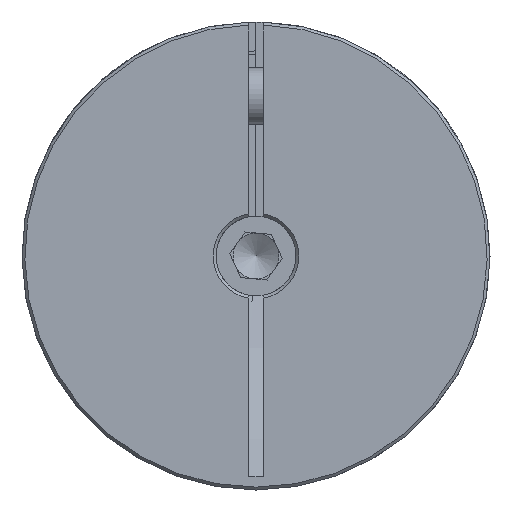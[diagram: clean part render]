
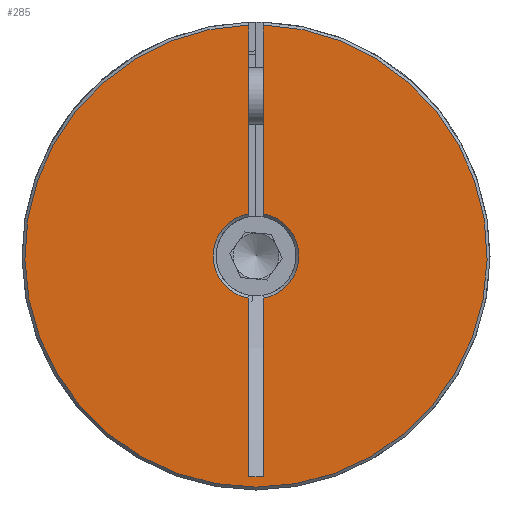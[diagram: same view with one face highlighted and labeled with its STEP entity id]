
A CAD part, left-side view. The second image highlights one B-rep face of the part: STEP entity #285.
In plain terms, the highlighted planar face has unit normal (-1, 0, 0).
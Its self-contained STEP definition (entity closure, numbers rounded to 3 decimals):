
#285 = ADVANCED_FACE( 'NONE', ( #622 ), #623, .F. );
#622 = FACE_OUTER_BOUND( '', #1124, .T. );
#623 = PLANE( '', #1125 );
#1124 = EDGE_LOOP( '', ( #1665, #1666, #1667, #1668, #1669, #1670, #1671, #1672 ) );
#1125 = AXIS2_PLACEMENT_3D( '', #1673, #1674, #1675 );
#1665 = ORIENTED_EDGE( '', *, *, #2519, .T. );
#1666 = ORIENTED_EDGE( '', *, *, #2520, .T. );
#1667 = ORIENTED_EDGE( '', *, *, #2521, .T. );
#1668 = ORIENTED_EDGE( '', *, *, #2522, .T. );
#1669 = ORIENTED_EDGE( '', *, *, #2523, .F. );
#1670 = ORIENTED_EDGE( '', *, *, #2524, .T. );
#1671 = ORIENTED_EDGE( '', *, *, #2525, .F. );
#1672 = ORIENTED_EDGE( '', *, *, #2526, .T. );
#1673 = CARTESIAN_POINT( '', ( 0., 7., 0. ) );
#1674 = DIRECTION( '', ( 1., 0., 0. ) );
#1675 = DIRECTION( '', ( 0., 1., 0. ) );
#2519 = EDGE_CURVE( 'NONE', #2893, #2894, #2895, .T. );
#2520 = EDGE_CURVE( 'NONE', #2894, #2896, #2897, .T. );
#2521 = EDGE_CURVE( 'NONE', #2896, #2898, #2899, .T. );
#2522 = EDGE_CURVE( 'NONE', #2898, #2900, #2901, .F. );
#2523 = EDGE_CURVE( 'NONE', #2902, #2900, #2903, .F. );
#2524 = EDGE_CURVE( 'NONE', #2902, #2904, #2905, .T. );
#2525 = EDGE_CURVE( 'NONE', #2906, #2904, #2907, .F. );
#2526 = EDGE_CURVE( 'NONE', #2906, #2893, #2908, .T. );
#2893 = VERTEX_POINT( 'NONE', #3380 );
#2894 = VERTEX_POINT( 'NONE', #3381 );
#2895 = LINE( '', #3382, #3383 );
#2896 = VERTEX_POINT( 'NONE', #3384 );
#2897 = CIRCLE( '', #3385, 7.5 );
#2898 = VERTEX_POINT( 'NONE', #3386 );
#2899 = LINE( '', #3387, #3388 );
#2900 = VERTEX_POINT( 'NONE', #3389 );
#2901 = CIRCLE( '', #3390, 40.5 );
#2902 = VERTEX_POINT( 'NONE', #3391 );
#2903 = LINE( '', #3392, #3393 );
#2904 = VERTEX_POINT( 'NONE', #3394 );
#2905 = CIRCLE( '', #3395, 7.5 );
#2906 = VERTEX_POINT( 'NONE', #3396 );
#2907 = LINE( '', #3397, #3398 );
#2908 = LINE( '', #3399, #3400 );
#3380 = CARTESIAN_POINT( '', ( 0., 1.3, -38.697 ) );
#3381 = CARTESIAN_POINT( '', ( 0., 1.3, -7.386 ) );
#3382 = CARTESIAN_POINT( '', ( 0., 1.3, 0. ) );
#3383 = VECTOR( '', #4062, 1000. );
#3384 = CARTESIAN_POINT( '', ( 0., 1.3, 7.386 ) );
#3385 = AXIS2_PLACEMENT_3D( '', #4063, #4064, #4065 );
#3386 = CARTESIAN_POINT( '', ( 0., 1.3, 40.479 ) );
#3387 = CARTESIAN_POINT( '', ( 0., 1.3, 0. ) );
#3388 = VECTOR( '', #4066, 1000. );
#3389 = CARTESIAN_POINT( '', ( 0., -1.3, 40.479 ) );
#3390 = AXIS2_PLACEMENT_3D( '', #4067, #4068, #4069 );
#3391 = CARTESIAN_POINT( '', ( 0., -1.3, 7.386 ) );
#3392 = CARTESIAN_POINT( '', ( 0., -1.3, 11. ) );
#3393 = VECTOR( '', #4070, 1000. );
#3394 = CARTESIAN_POINT( '', ( 0., -1.3, -7.386 ) );
#3395 = AXIS2_PLACEMENT_3D( '', #4071, #4072, #4073 );
#3396 = CARTESIAN_POINT( '', ( 0., -1.3, -38.697 ) );
#3397 = CARTESIAN_POINT( '', ( 0., -1.3, 11. ) );
#3398 = VECTOR( '', #4074, 1000. );
#3399 = CARTESIAN_POINT( '', ( 0., -1.3, -38.697 ) );
#3400 = VECTOR( '', #4075, 1000. );
#4062 = DIRECTION( '', ( 0., 0., 1. ) );
#4063 = CARTESIAN_POINT( '', ( 0., 0., 0. ) );
#4064 = DIRECTION( '', ( 1., 0., 0. ) );
#4065 = DIRECTION( '', ( 0., 0., -1. ) );
#4066 = DIRECTION( '', ( 0., 0., 1. ) );
#4067 = CARTESIAN_POINT( '', ( 0., 0., 0. ) );
#4068 = DIRECTION( '', ( 1., 0., 0. ) );
#4069 = DIRECTION( '', ( 0., 0., -1. ) );
#4070 = DIRECTION( '', ( 0., 0., -1. ) );
#4071 = CARTESIAN_POINT( '', ( 0., 0., 0. ) );
#4072 = DIRECTION( '', ( 1., 0., 0. ) );
#4073 = DIRECTION( '', ( 0., 0., -1. ) );
#4074 = DIRECTION( '', ( 0., 0., -1. ) );
#4075 = DIRECTION( '', ( 0., 1., 0. ) );
